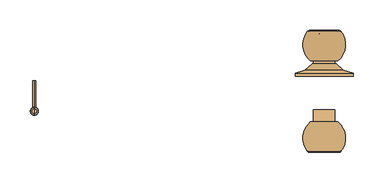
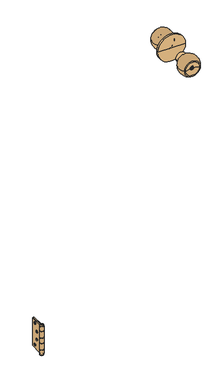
"""IFC4 building model written with IfcOpenShell, lengths in millimetres: door geometry, Puerta contraplacada : Puerta contraplacada 0.65x2.10 m."""

from ifc_helpers import new_model, si_unit, point, frame, frame_2d, origin, place, context, project, spatial, polyline, circle_curve, ellipse_curve, trimmed, segment, composite_curve, outline, extrude, source, transform, mapped, element, save
from ifc_brep_helpers import plane_surface, cylinder_surface, revolved_surface, advanced_brep


def door_6a2f5d4e(model_context):
    return source(origin(), model_context, "Body", "SolidModel", [
        advanced_brep(
        [(-289.0, -7.5, 200.0349265), (-289.0, -51.5, 200.0349265), (-289.0, -51.5, 184.5349265), (-289.0, -51.0, 184.5349265), (-289.0, -51.0, 159.0349265), (-289.0, -51.5, 159.0349265), (-289.0, -51.5, 141.0349265), (-289.0, -51.0, 141.0349265), (-289.0, -51.0, 115.5349265), (-289.0, -51.5, 115.5349265), (-289.0, -51.5, 100.0349265), (-289.0, -7.5, 100.0349265), (-289.0, -17.5, 111.0349265), (-289.0, -25.5, 111.0349265), (-289.0, -28.5, 136.0349265), (-289.0, -36.5, 136.0349265), (-289.0, -17.5, 189.0349265), (-289.0, -25.5, 189.0349265), (-289.0, -28.5, 164.0349265), (-289.0, -36.5, 164.0349265), (-291.0, -7.5, 100.0349265), (-291.0, -53.027864, 100.0349265), (-291.0, -53.027864, 115.5349265), (-291.0, -51.0, 115.5349265), (-291.0, -51.0, 141.0349265), (-291.0, -53.027864, 141.0349265), (-291.0, -53.027864, 159.0349265), (-291.0, -51.0, 159.0349265), (-291.0, -51.0, 184.5349265), (-291.0, -53.027864, 184.5349265), (-291.0, -53.027864, 200.0349265), (-291.0, -7.5, 200.0349265), (-291.0, -25.5, 111.0349265), (-291.0, -17.5, 111.0349265), (-291.0, -36.5, 136.0349265), (-291.0, -28.5, 136.0349265), (-291.0, -25.5, 189.0349265), (-291.0, -17.5, 189.0349265), (-291.0, -36.5, 164.0349265), (-291.0, -28.5, 164.0349265), (-292.0, -51.0192593, 100.0349265), (-292.0, -53.027864, 100.0349265), (-292.0, -53.027864, 200.0349265), (-292.0, -51.0192593, 200.0349265), (-292.0, -51.0192593, 184.5349265), (-292.0, -53.027864, 184.5349265), (-292.0, -53.027864, 159.0349265), (-292.0, -51.0192593, 159.0349265), (-292.0, -51.0192593, 141.0349265), (-292.0, -53.027864, 141.0349265), (-292.0, -53.027864, 115.5349265), (-292.0, -51.0192593, 115.5349265)],
        [
            (0, 1),
            (1, 2),
            (2, 3),
            (3, 4),
            (4, 5),
            (5, 6),
            (6, 7),
            (7, 8),
            (8, 9),
            (9, 10),
            (10, 11),
            (11, 0),
            (12, 13, circle_curve(frame((-289.0, -21.5, 111.0349265), z_axis=(-1.0, 0.0, 0.0), x_axis=(0.0, 1.0, 0.0)), 4.0)),
            (13, 12, circle_curve(frame((-289.0, -21.5, 111.0349265), z_axis=(-1.0, 0.0, 0.0), x_axis=(0.0, 1.0, 0.0)), 4.0)),
            (14, 15, circle_curve(frame((-289.0, -32.5, 136.0349265), z_axis=(-1.0, 0.0, 0.0), x_axis=(0.0, 1.0, 0.0)), 4.0)),
            (15, 14, circle_curve(frame((-289.0, -32.5, 136.0349265), z_axis=(-1.0, 0.0, 0.0), x_axis=(0.0, 1.0, 0.0)), 4.0)),
            (16, 17, circle_curve(frame((-289.0, -21.5, 189.0349265), z_axis=(-1.0, 0.0, 0.0), x_axis=(0.0, 1.0, 0.0)), 4.0)),
            (17, 16, circle_curve(frame((-289.0, -21.5, 189.0349265), z_axis=(-1.0, 0.0, 0.0), x_axis=(0.0, 1.0, 0.0)), 4.0)),
            (18, 19, circle_curve(frame((-289.0, -32.5, 164.0349265), z_axis=(-1.0, 0.0, 0.0), x_axis=(0.0, 1.0, 0.0)), 4.0)),
            (19, 18, circle_curve(frame((-289.0, -32.5, 164.0349265), z_axis=(-1.0, 0.0, 0.0), x_axis=(0.0, 1.0, 0.0)), 4.0)),
            (20, 21),
            (21, 22),
            (22, 23),
            (23, 24),
            (24, 25),
            (25, 26),
            (26, 27),
            (27, 28),
            (28, 29),
            (29, 30),
            (30, 31),
            (31, 20),
            (32, 33, circle_curve(frame((-291.0, -21.5, 111.0349265), z_axis=(1.0, 0.0, 0.0), x_axis=(0.0, 1.0, 0.0)), 4.0)),
            (33, 32, circle_curve(frame((-291.0, -21.5, 111.0349265), z_axis=(1.0, 0.0, 0.0), x_axis=(0.0, 1.0, 0.0)), 4.0)),
            (34, 35, circle_curve(frame((-291.0, -32.5, 136.0349265), z_axis=(1.0, 0.0, 0.0), x_axis=(0.0, 1.0, 0.0)), 4.0)),
            (35, 34, circle_curve(frame((-291.0, -32.5, 136.0349265), z_axis=(1.0, 0.0, 0.0), x_axis=(0.0, 1.0, 0.0)), 4.0)),
            (36, 37, circle_curve(frame((-291.0, -21.5, 189.0349265), z_axis=(1.0, 0.0, 0.0), x_axis=(0.0, 1.0, 0.0)), 4.0)),
            (37, 36, circle_curve(frame((-291.0, -21.5, 189.0349265), z_axis=(1.0, 0.0, 0.0), x_axis=(0.0, 1.0, 0.0)), 4.0)),
            (38, 39, circle_curve(frame((-291.0, -32.5, 164.0349265), z_axis=(1.0, 0.0, 0.0), x_axis=(0.0, 1.0, 0.0)), 4.0)),
            (39, 38, circle_curve(frame((-291.0, -32.5, 164.0349265), z_axis=(1.0, 0.0, 0.0), x_axis=(0.0, 1.0, 0.0)), 4.0)),
            (10, 40, circle_curve(frame((-291.5, -57.5, 100.0349265), z_axis=(0.0, 0.0, -1.0), x_axis=(0.0, -1.0, 0.0)), 6.5)),
            (40, 41),
            (41, 21, circle_curve(frame((-291.5, -57.5, 100.0349265), z_axis=(0.0, 0.0, 1.0), x_axis=(0.0, -1.0, 0.0)), 4.5)),
            (20, 11),
            (31, 0),
            (30, 42, circle_curve(frame((-291.5, -57.5, 200.0349265), z_axis=(0.0, 0.0, -1.0), x_axis=(0.0, -1.0, 0.0)), 4.5)),
            (42, 43),
            (43, 1, circle_curve(frame((-291.5, -57.5, 200.0349265), z_axis=(0.0, 0.0, 1.0), x_axis=(0.0, -1.0, 0.0)), 6.5)),
            (27, 4),
            (3, 28),
            (23, 8),
            (7, 24),
            (2, 44, circle_curve(frame((-291.5, -57.5, 184.5349265), z_axis=(0.0, 0.0, -1.0), x_axis=(0.0, -1.0, 0.0)), 6.5)),
            (44, 45),
            (45, 29, circle_curve(frame((-291.5, -57.5, 184.5349265), z_axis=(0.0, 0.0, 1.0), x_axis=(0.0, -1.0, 0.0)), 4.5)),
            (43, 44),
            (42, 45),
            (26, 46, circle_curve(frame((-291.5, -57.5, 159.0349265), z_axis=(0.0, 0.0, -1.0), x_axis=(0.0, -1.0, 0.0)), 4.5)),
            (46, 47),
            (47, 5, circle_curve(frame((-291.5, -57.5, 159.0349265), z_axis=(0.0, 0.0, 1.0), x_axis=(0.0, -1.0, 0.0)), 6.5)),
            (6, 48, circle_curve(frame((-291.5, -57.5, 141.0349265), z_axis=(0.0, 0.0, -1.0), x_axis=(0.0, -1.0, 0.0)), 6.5)),
            (48, 49),
            (49, 25, circle_curve(frame((-291.5, -57.5, 141.0349265), z_axis=(0.0, 0.0, 1.0), x_axis=(0.0, -1.0, 0.0)), 4.5)),
            (47, 48),
            (46, 49),
            (22, 50, circle_curve(frame((-291.5, -57.5, 115.5349265), z_axis=(0.0, 0.0, -1.0), x_axis=(0.0, -1.0, 0.0)), 4.5)),
            (50, 51),
            (51, 9, circle_curve(frame((-291.5, -57.5, 115.5349265), z_axis=(0.0, 0.0, 1.0), x_axis=(0.0, -1.0, 0.0)), 6.5)),
            (51, 40),
            (50, 41),
            (33, 12),
            (13, 32),
            (35, 14),
            (15, 34),
            (37, 16),
            (17, 36),
            (39, 18),
            (19, 38),
        ],
        [
            plane_surface(frame((-289.0, -51.0, 100.0349265), z_axis=(1.0, 0.0, 0.0), x_axis=(0.0, 0.0, 1.0))),
            plane_surface(frame((-291.0, -51.0, 100.0349265), z_axis=(-1.0, 0.0, 0.0), x_axis=(0.0, 0.0, -1.0))),
            plane_surface(frame((-289.0, -7.5, 100.0349265), z_axis=(0.0, 0.0, -1.0), x_axis=(-1.0, 0.0, 0.0))),
            plane_surface(frame((-289.0, -7.5, 200.0349265), z_axis=(0.0, 1.0, 0.0), x_axis=(-1.0, 0.0, 0.0))),
            plane_surface(frame((-289.0, -51.0, 200.0349265), z_axis=(0.0, 0.0, 1.0), x_axis=(-1.0, 0.0, 0.0))),
            plane_surface(frame((-289.0, -51.0, 100.0349265), z_axis=(0.0, -1.0, 0.0), x_axis=(-1.0, 0.0, 0.0))),
            plane_surface(frame((-291.0, -51.0, 184.5349265), z_axis=(0.0, 0.0, -1.0), x_axis=(0.0, -1.0, 0.0))),
            cylinder_surface(frame((-291.5, -57.5, 184.5349265), z_axis=(0.0, 0.0, 1.0), x_axis=(0.0, -1.0, 0.0)), 6.5),
            plane_surface(frame((-292.0, -51.0192593, 200.0349265), z_axis=(1.0, 0.0, 0.0), x_axis=(0.0, 0.0, -1.0))),
            revolved_surface(polyline([(-291.5, -62.0, 184.5349265), (-291.5, -62.0, 200.0349265)]), (-291.5, -57.5, 184.5349265), (0.0, 0.0, -1.0)),
            plane_surface(frame((-291.0, -51.0, 159.0349265), z_axis=(0.0, 0.0, 1.0), x_axis=(0.0, 1.0, 0.0))),
            plane_surface(frame((-291.0, -51.0, 141.0349265), z_axis=(0.0, 0.0, -1.0), x_axis=(0.0, -1.0, 0.0))),
            cylinder_surface(frame((-291.5, -57.5, 141.0349265), z_axis=(0.0, 0.0, 1.0), x_axis=(0.0, -1.0, 0.0)), 6.5),
            plane_surface(frame((-292.0, -51.0192593, 159.0349265), z_axis=(1.0, 0.0, 0.0), x_axis=(0.0, 0.0, -1.0))),
            revolved_surface(polyline([(-291.5, -62.0, 141.0349265), (-291.5, -62.0, 159.0349265)]), (-291.5, -57.5, 141.0349265), (0.0, 0.0, -1.0)),
            plane_surface(frame((-291.0, -51.0, 115.5349265), z_axis=(0.0, 0.0, 1.0), x_axis=(0.0, 1.0, 0.0))),
            cylinder_surface(frame((-291.5, -57.5, 100.0349265), z_axis=(0.0, 0.0, 1.0), x_axis=(0.0, -1.0, 0.0)), 6.5),
            plane_surface(frame((-292.0, -51.0192593, 115.5349265), z_axis=(1.0, 0.0, 0.0), x_axis=(0.0, 0.0, -1.0))),
            revolved_surface(polyline([(-291.5, -62.0, 100.0349265), (-291.5, -62.0, 115.5349265)]), (-291.5, -57.5, 100.0349265), (0.0, 0.0, -1.0)),
            revolved_surface(polyline([(-289.0, -17.5, 111.0349265), (-291.0, -17.5, 111.0349265)]), (-294.0, -21.5, 111.0349265), (1.0, 0.0, 0.0)),
            revolved_surface(polyline([(-289.0, -28.5, 136.0349265), (-291.0, -28.5, 136.0349265)]), (-292.0, -32.5, 136.0349265), (1.0, 0.0, 0.0)),
            revolved_surface(polyline([(-289.0, -17.5, 189.0349265), (-291.0, -17.5, 189.0349265)]), (-292.0, -21.5, 189.0349265), (1.0, 0.0, 0.0)),
            revolved_surface(polyline([(-289.0, -28.5, 164.0349265), (-291.0, -28.5, 164.0349265)]), (-292.0, -32.5, 164.0349265), (1.0, 0.0, 0.0)),
        ],
        [
            (0, [[1, 2, 3, 4, 5, 6, 7, 8, 9, 10, 11, 12], [13, 14], [15, 16], [17, 18], [19, 20]]),
            (1, [[21, 22, 23, 24, 25, 26, 27, 28, 29, 30, 31, 32], [33, 34], [35, 36], [37, 38], [39, 40]]),
            (2, [[-11, 41, 42, 43, -21, 44]]),
            (3, [[-44, -32, 45, -12]]),
            (4, [[-31, 46, 47, 48, -1, -45]]),
            (5, [[-28, 49, -4, 50]]),
            (5, [[-24, 51, -8, 52]]),
            (6, [[-29, -50, -3, 53, 54, 55]]),
            (7, [[56, -53, -2, -48]]),
            (8, [[57, -54, -56, -47]]),
            (9, [[-30, -55, -57, -46]]),
            (10, [[-5, -49, -27, 58, 59, 60]]),
            (11, [[-25, -52, -7, 61, 62, 63]]),
            (12, [[64, -61, -6, -60]]),
            (13, [[65, -62, -64, -59]]),
            (14, [[-26, -63, -65, -58]]),
            (15, [[-9, -51, -23, 66, 67, 68]]),
            (16, [[69, -41, -10, -68]]),
            (17, [[70, -42, -69, -67]]),
            (18, [[-22, -43, -70, -66]]),
            (19, [[-34, 71, -14, 72]]),
            (19, [[-13, -71, -33, -72]]),
            (20, [[-36, 73, -16, 74]]),
            (20, [[-15, -73, -35, -74]]),
            (21, [[-38, 75, -18, 76]]),
            (21, [[-17, -75, -37, -76]]),
            (22, [[-40, 77, -20, 78]]),
            (22, [[-19, -77, -39, -78]]),
        ],
    ),
        advanced_brep(
        [(-291.5, -53.0, 204.0349265), (-291.5, -53.0, 200.5349265), (-291.5, -61.9442719, 200.5349265), (-291.5, -61.9442719, 204.0349265), (-291.5, -57.472136, 204.0349265), (-291.5, -53.0, 96.0349265), (-291.5, -57.472136, 96.0349265), (-291.5, -61.9442719, 96.0349265), (-291.5, -53.0, 99.5349265), (-291.5, -61.9442719, 99.5349265)],
        [
            (0, 1, circle_curve(frame((-291.5, -53.0, 202.2849265), z_axis=(-1.0, 0.0, 0.0), x_axis=(0.0, -1.0, 0.0)), 1.75)),
            (1, 2, circle_curve(frame((-291.5, -57.472136, 200.5349265), z_axis=(0.0, 0.0, 1.0), x_axis=(0.0, -1.0, 0.0)), 4.472136)),
            (2, 3, circle_curve(frame((-291.5, -61.9442719, 202.2849265), z_axis=(-1.0, 0.0, 0.0), x_axis=(0.0, 1.0, 0.0)), 1.75)),
            (3, 0, circle_curve(frame((-291.5, -57.472136, 204.0349265), z_axis=(0.0, 0.0, -1.0), x_axis=(0.0, -1.0, 0.0)), 4.472136)),
            (2, 1, circle_curve(frame((-291.5, -57.472136, 200.5349265), z_axis=(0.0, 0.0, 1.0), x_axis=(0.0, -1.0, 0.0)), 4.472136)),
            (0, 3, circle_curve(frame((-291.5, -57.472136, 204.0349265), z_axis=(0.0, 0.0, -1.0), x_axis=(0.0, -1.0, 0.0)), 4.472136)),
            (4, 0),
            (3, 4),
            (5, 6),
            (6, 7),
            (7, 5, circle_curve(frame((-291.5, -57.472136, 96.0349265), z_axis=(0.0, 0.0, -1.0), x_axis=(0.0, -1.0, 0.0)), 4.472136)),
            (5, 7, circle_curve(frame((-291.5, -57.472136, 96.0349265), z_axis=(0.0, 0.0, -1.0), x_axis=(0.0, -1.0, 0.0)), 4.472136)),
            (8, 5, circle_curve(frame((-291.5, -53.0, 97.7849265), z_axis=(-1.0, 0.0, 0.0), x_axis=(0.0, -1.0, 0.0)), 1.75)),
            (7, 9, circle_curve(frame((-291.5, -61.9442719, 97.7849265), z_axis=(-1.0, 0.0, 0.0), x_axis=(0.0, 1.0, 0.0)), 1.75)),
            (9, 8, circle_curve(frame((-291.5, -57.472136, 99.5349265), z_axis=(0.0, 0.0, -1.0), x_axis=(0.0, -1.0, 0.0)), 4.472136)),
            (8, 9, circle_curve(frame((-291.5, -57.472136, 99.5349265), z_axis=(0.0, 0.0, -1.0), x_axis=(0.0, -1.0, 0.0)), 4.472136)),
            (1, 8),
            (9, 2),
        ],
        [
            revolved_surface(trimmed(ellipse_curve(frame((-291.5, -61.9442719, 202.2849265), z_axis=(-1.0, 0.0, 0.0), x_axis=(0.0, 1.0, 0.0)), 1.75, 1.75), [point((-291.5, -61.9442719, 200.5349265))], [point((-291.5, -61.9442719, 204.0349265))], True, "CARTESIAN"), (-291.5, -57.472136, 204.0349265), (0.0, 0.0, 1.0)),
            plane_surface(frame((-291.5, -57.472136, 204.0349265), z_axis=(0.0, 0.0, 1.0), x_axis=(0.0, -1.0, 0.0))),
            plane_surface(frame((-291.5, -57.472136, 96.0349265), z_axis=(0.0, 0.0, -1.0), x_axis=(0.0, -1.0, 0.0))),
            revolved_surface(trimmed(ellipse_curve(frame((-291.5, -61.9442719, 97.7849265), z_axis=(-1.0, 0.0, 0.0), x_axis=(0.0, 1.0, 0.0)), 1.75, 1.75), [point((-291.5, -61.9442719, 96.0349265))], [point((-291.5, -61.9442719, 99.5349265))], True, "CARTESIAN"), (-291.5, -57.472136, 204.0349265), (0.0, 0.0, 1.0)),
            cylinder_surface(frame((-291.5, -57.472136, 204.0349265), z_axis=(0.0, 0.0, 1.0), x_axis=(0.0, -1.0, 0.0)), 4.472136),
        ],
        [
            (0, [[1, 2, 3, 4]]),
            (0, [[-3, 5, -1, 6]]),
            (1, [[7, -4, 8]]),
            (1, [[-8, -6, -7]]),
            (2, [[9, 10, 11]]),
            (2, [[-10, -9, 12]]),
            (3, [[13, -11, 14, 15]]),
            (3, [[-14, -12, -13, 16]]),
            (4, [[17, -15, 18, -2]]),
            (4, [[-18, -16, -17, -5]]),
        ],
    ),
        advanced_brep(
        [(-292.0, -51.0, 200.0349265), (-292.0, -51.0, 183.5349265), (-292.0, -53.027864, 183.5349265), (-292.0, -53.027864, 160.0349265), (-292.0, -51.0, 160.0349265), (-292.0, -51.0, 140.0349265), (-292.0, -53.027864, 140.0349265), (-292.0, -53.027864, 116.5349265), (-292.0, -51.0, 116.5349265), (-292.0, -51.0, 100.0349265), (-292.0, -7.5, 100.0349265), (-292.0, -7.5, 200.0349265), (-292.0, -17.5, 111.0349265), (-292.0, -25.5, 111.0349265), (-292.0, -28.5, 136.0349265), (-292.0, -36.5, 136.0349265), (-292.0, -17.5, 189.0349265), (-292.0, -25.5, 189.0349265), (-292.0, -28.5, 164.0349265), (-292.0, -36.5, 164.0349265), (-294.0, -51.0, 100.0349265), (-294.0, -51.0, 116.5349265), (-294.0, -51.5, 116.5349265), (-294.0, -51.5, 140.0349265), (-294.0, -51.0, 140.0349265), (-294.0, -51.0, 160.0349265), (-294.0, -51.5, 160.0349265), (-294.0, -51.5, 183.5349265), (-294.0, -51.0, 183.5349265), (-294.0, -51.0, 200.0349265), (-294.0, -7.5, 200.0349265), (-294.0, -7.5, 100.0349265), (-294.0, -25.5, 111.0349265), (-294.0, -17.5, 111.0349265), (-294.0, -36.5, 136.0349265), (-294.0, -28.5, 136.0349265), (-294.0, -25.5, 189.0349265), (-294.0, -17.5, 189.0349265), (-294.0, -36.5, 164.0349265), (-294.0, -28.5, 164.0349265), (-291.0, -51.0192593, 183.5349265), (-291.0, -53.027864, 183.5349265), (-291.0, -53.027864, 160.0349265), (-291.0, -51.0192593, 160.0349265), (-291.0, -51.0192593, 140.0349265), (-291.0, -53.027864, 140.0349265), (-291.0, -53.027864, 116.5349265), (-291.0, -51.0192593, 116.5349265)],
        [
            (0, 1),
            (1, 2),
            (2, 3),
            (3, 4),
            (4, 5),
            (5, 6),
            (6, 7),
            (7, 8),
            (8, 9),
            (9, 10),
            (10, 11),
            (11, 0),
            (12, 13, circle_curve(frame((-292.0, -21.5, 111.0349265), z_axis=(-1.0, 0.0, 0.0), x_axis=(0.0, 1.0, 0.0)), 4.0)),
            (13, 12, circle_curve(frame((-292.0, -21.5, 111.0349265), z_axis=(-1.0, 0.0, 0.0), x_axis=(0.0, 1.0, 0.0)), 4.0)),
            (14, 15, circle_curve(frame((-292.0, -32.5, 136.0349265), z_axis=(-1.0, 0.0, 0.0), x_axis=(0.0, 1.0, 0.0)), 4.0)),
            (15, 14, circle_curve(frame((-292.0, -32.5, 136.0349265), z_axis=(-1.0, 0.0, 0.0), x_axis=(0.0, 1.0, 0.0)), 4.0)),
            (16, 17, circle_curve(frame((-292.0, -21.5, 189.0349265), z_axis=(-1.0, 0.0, 0.0), x_axis=(0.0, 1.0, 0.0)), 4.0)),
            (17, 16, circle_curve(frame((-292.0, -21.5, 189.0349265), z_axis=(-1.0, 0.0, 0.0), x_axis=(0.0, 1.0, 0.0)), 4.0)),
            (18, 19, circle_curve(frame((-292.0, -32.5, 164.0349265), z_axis=(-1.0, 0.0, 0.0), x_axis=(0.0, 1.0, 0.0)), 4.0)),
            (19, 18, circle_curve(frame((-292.0, -32.5, 164.0349265), z_axis=(-1.0, 0.0, 0.0), x_axis=(0.0, 1.0, 0.0)), 4.0)),
            (20, 21),
            (21, 22),
            (22, 23),
            (23, 24),
            (24, 25),
            (25, 26),
            (26, 27),
            (27, 28),
            (28, 29),
            (29, 30),
            (30, 31),
            (31, 20),
            (32, 33, circle_curve(frame((-294.0, -21.5, 111.0349265), z_axis=(1.0, 0.0, 0.0), x_axis=(0.0, 1.0, 0.0)), 4.0)),
            (33, 32, circle_curve(frame((-294.0, -21.5, 111.0349265), z_axis=(1.0, 0.0, 0.0), x_axis=(0.0, 1.0, 0.0)), 4.0)),
            (34, 35, circle_curve(frame((-294.0, -32.5, 136.0349265), z_axis=(1.0, 0.0, 0.0), x_axis=(0.0, 1.0, 0.0)), 4.0)),
            (35, 34, circle_curve(frame((-294.0, -32.5, 136.0349265), z_axis=(1.0, 0.0, 0.0), x_axis=(0.0, 1.0, 0.0)), 4.0)),
            (36, 37, circle_curve(frame((-294.0, -21.5, 189.0349265), z_axis=(1.0, 0.0, 0.0), x_axis=(0.0, 1.0, 0.0)), 4.0)),
            (37, 36, circle_curve(frame((-294.0, -21.5, 189.0349265), z_axis=(1.0, 0.0, 0.0), x_axis=(0.0, 1.0, 0.0)), 4.0)),
            (38, 39, circle_curve(frame((-294.0, -32.5, 164.0349265), z_axis=(1.0, 0.0, 0.0), x_axis=(0.0, 1.0, 0.0)), 4.0)),
            (39, 38, circle_curve(frame((-294.0, -32.5, 164.0349265), z_axis=(1.0, 0.0, 0.0), x_axis=(0.0, 1.0, 0.0)), 4.0)),
            (9, 20),
            (31, 10),
            (30, 11),
            (29, 0),
            (8, 21),
            (28, 1),
            (24, 5),
            (4, 25),
            (27, 40, circle_curve(frame((-291.5, -57.5, 183.5349265), z_axis=(0.0, 0.0, 1.0), x_axis=(0.0, -1.0, 0.0)), 6.5)),
            (40, 41),
            (41, 2, circle_curve(frame((-291.5, -57.5, 183.5349265), z_axis=(0.0, 0.0, -1.0), x_axis=(0.0, -1.0, 0.0)), 4.5)),
            (3, 42, circle_curve(frame((-291.5, -57.5, 160.0349265), z_axis=(0.0, 0.0, 1.0), x_axis=(0.0, -1.0, 0.0)), 4.5)),
            (42, 43),
            (43, 26, circle_curve(frame((-291.5, -57.5, 160.0349265), z_axis=(0.0, 0.0, -1.0), x_axis=(0.0, -1.0, 0.0)), 6.5)),
            (43, 40),
            (42, 41),
            (23, 44, circle_curve(frame((-291.5, -57.5, 140.0349265), z_axis=(0.0, 0.0, 1.0), x_axis=(0.0, -1.0, 0.0)), 6.5)),
            (44, 45),
            (45, 6, circle_curve(frame((-291.5, -57.5, 140.0349265), z_axis=(0.0, 0.0, -1.0), x_axis=(0.0, -1.0, 0.0)), 4.5)),
            (7, 46, circle_curve(frame((-291.5, -57.5, 116.5349265), z_axis=(0.0, 0.0, 1.0), x_axis=(0.0, -1.0, 0.0)), 4.5)),
            (46, 47),
            (47, 22, circle_curve(frame((-291.5, -57.5, 116.5349265), z_axis=(0.0, 0.0, -1.0), x_axis=(0.0, -1.0, 0.0)), 6.5)),
            (47, 44),
            (46, 45),
            (33, 12),
            (13, 32),
            (35, 14),
            (15, 34),
            (37, 16),
            (17, 36),
            (39, 18),
            (19, 38),
        ],
        [
            plane_surface(frame((-292.0, -51.0, 100.0349265), z_axis=(1.0, 0.0, 0.0), x_axis=(0.0, 0.0, 1.0))),
            plane_surface(frame((-294.0, -51.0, 100.0349265), z_axis=(-1.0, 0.0, 0.0), x_axis=(0.0, 0.0, -1.0))),
            plane_surface(frame((-292.0, -7.5, 100.0349265), z_axis=(0.0, 0.0, -1.0), x_axis=(-1.0, 0.0, 0.0))),
            plane_surface(frame((-292.0, -7.5, 200.0349265), z_axis=(0.0, 1.0, 0.0), x_axis=(-1.0, 0.0, 0.0))),
            plane_surface(frame((-292.0, -51.0, 200.0349265), z_axis=(0.0, 0.0, 1.0), x_axis=(-1.0, 0.0, 0.0))),
            plane_surface(frame((-292.0, -51.0, 100.0349265), z_axis=(0.0, -1.0, 0.0), x_axis=(-1.0, 0.0, 0.0))),
            plane_surface(frame((-291.5, -62.0, 183.5349265), z_axis=(0.0, 0.0, 1.0), x_axis=(1.0, 0.0, 0.0))),
            plane_surface(frame((-291.5, -62.0, 160.0349265), z_axis=(0.0, 0.0, -1.0), x_axis=(-1.0, 0.0, 0.0))),
            cylinder_surface(frame((-291.5, -57.5, 160.0349265), z_axis=(0.0, 0.0, 1.0), x_axis=(0.0, -1.0, 0.0)), 6.5),
            plane_surface(frame((-291.0, -53.027864, 183.5349265), z_axis=(-1.0, 0.0, 0.0), x_axis=(0.0, 0.0, -1.0))),
            revolved_surface(polyline([(-291.5, -62.0, 160.0349265), (-291.5, -62.0, 183.5349265)]), (-291.5, -57.5, 160.0349265), (0.0, 0.0, -1.0)),
            plane_surface(frame((-291.5, -62.0, 140.0349265), z_axis=(0.0, 0.0, 1.0), x_axis=(1.0, 0.0, 0.0))),
            plane_surface(frame((-291.5, -62.0, 116.5349265), z_axis=(0.0, 0.0, -1.0), x_axis=(-1.0, 0.0, 0.0))),
            cylinder_surface(frame((-291.5, -57.5, 116.5349265), z_axis=(0.0, 0.0, 1.0), x_axis=(0.0, -1.0, 0.0)), 6.5),
            plane_surface(frame((-291.0, -53.027864, 140.0349265), z_axis=(-1.0, 0.0, 0.0), x_axis=(0.0, 0.0, -1.0))),
            revolved_surface(polyline([(-291.5, -62.0, 116.5349265), (-291.5, -62.0, 140.0349265)]), (-291.5, -57.5, 116.5349265), (0.0, 0.0, -1.0)),
            revolved_surface(polyline([(-292.0, -17.5, 111.0349265), (-294.0, -17.5, 111.0349265)]), (-294.0, -21.5, 111.0349265), (1.0, 0.0, 0.0)),
            revolved_surface(polyline([(-292.0, -28.5, 136.0349265), (-294.0, -28.5, 136.0349265)]), (-292.0, -32.5, 136.0349265), (1.0, 0.0, 0.0)),
            revolved_surface(polyline([(-292.0, -17.5, 189.0349265), (-294.0, -17.5, 189.0349265)]), (-292.0, -21.5, 189.0349265), (1.0, 0.0, 0.0)),
            revolved_surface(polyline([(-292.0, -28.5, 164.0349265), (-294.0, -28.5, 164.0349265)]), (-292.0, -32.5, 164.0349265), (1.0, 0.0, 0.0)),
        ],
        [
            (0, [[1, 2, 3, 4, 5, 6, 7, 8, 9, 10, 11, 12], [13, 14], [15, 16], [17, 18], [19, 20]]),
            (1, [[21, 22, 23, 24, 25, 26, 27, 28, 29, 30, 31, 32], [33, 34], [35, 36], [37, 38], [39, 40]]),
            (2, [[41, -32, 42, -10]]),
            (3, [[-42, -31, 43, -11]]),
            (4, [[-43, -30, 44, -12]]),
            (5, [[-9, 45, -21, -41]]),
            (5, [[-29, 46, -1, -44]]),
            (5, [[-25, 47, -5, 48]]),
            (6, [[-2, -46, -28, 49, 50, 51]]),
            (7, [[-26, -48, -4, 52, 53, 54]]),
            (8, [[-27, -54, 55, -49]]),
            (9, [[-55, -53, 56, -50]]),
            (10, [[-56, -52, -3, -51]]),
            (11, [[-6, -47, -24, 57, 58, 59]]),
            (12, [[-22, -45, -8, 60, 61, 62]]),
            (13, [[-23, -62, 63, -57]]),
            (14, [[-63, -61, 64, -58]]),
            (15, [[-64, -60, -7, -59]]),
            (16, [[-34, 65, -14, 66]]),
            (16, [[-13, -65, -33, -66]]),
            (17, [[-36, 67, -16, 68]]),
            (17, [[-15, -67, -35, -68]]),
            (18, [[-38, 69, -18, 70]]),
            (18, [[-17, -69, -37, -70]]),
            (19, [[-40, 71, -20, 72]]),
            (19, [[-19, -71, -39, -72]]),
        ],
    ),
        advanced_brep(
        [(208.5312643, 74.946362, 1000.0), (191.48125, 70.0573491, 1000.0), (179.08125, 70.0573491, 1000.0), (162.0312357, 74.946362, 1000.0), (191.48125, 66.5726145, 1000.0), (179.08125, 66.5726145, 1000.0), (185.28125, 66.5726145, 1000.0), (162.840796, 25.0, 1000.0), (184.28125, 25.0, 1000.0), (185.28125, 25.0, 1000.0), (185.28125, 25.0, 1004.2233344), (186.28125, 25.0, 1004.2233344), (186.28125, 25.0, 1000.0), (207.721704, 25.0, 1000.0), (186.28125, 25.0, 995.9198337), (184.28125, 25.0, 995.9198337), (184.28125, 25.0, 997.5508857), (185.28125, 25.0, 997.5508857), (185.28125, 25.0, 998.7784645), (184.28125, 25.0, 998.7784645), (212.7045262, 73.6071088, 1000.0), (157.8579738, 73.6071088, 1000.0), (186.28125, 33.4273855, 995.9198337), (186.28125, 33.4273855, 1004.2233344), (185.28125, 33.4273855, 1004.2233344), (185.28125, 33.4273855, 1000.0), (184.28125, 33.4273855, 1000.0), (184.28125, 33.4273855, 998.7784645), (185.28125, 33.4273855, 998.7784645), (185.28125, 33.4273855, 997.5508857), (184.28125, 33.4273855, 997.5508857), (184.28125, 33.4273855, 995.9198337)],
        [
            (0, 1),
            (1, 2, circle_curve(frame((185.28125, 70.0573491, 1000.0), z_axis=(0.0, -1.0, 0.0), x_axis=(-1.0, 0.0, 0.0)), 6.2)),
            (2, 3),
            (3, 0, circle_curve(frame((185.28125, 74.946362, 1000.0), z_axis=(0.0, 1.0, 0.0), x_axis=(-1.0, 0.0, 0.0)), 23.2500143)),
            (2, 1, circle_curve(frame((185.28125, 70.0573491, 1000.0), z_axis=(0.0, -1.0, 0.0), x_axis=(-1.0, 0.0, 0.0)), 6.2)),
            (0, 3, circle_curve(frame((185.28125, 74.946362, 1000.0), z_axis=(0.0, 1.0, 0.0), x_axis=(-1.0, 0.0, 0.0)), 23.2500143)),
            (1, 4),
            (4, 5, circle_curve(frame((185.28125, 66.5726145, 1000.0), z_axis=(0.0, -1.0, 0.0), x_axis=(-1.0, 0.0, 0.0)), 6.2)),
            (5, 2),
            (5, 4, circle_curve(frame((185.28125, 66.5726145, 1000.0), z_axis=(0.0, -1.0, 0.0), x_axis=(-1.0, 0.0, 0.0)), 6.2)),
            (4, 6),
            (6, 5),
            (7, 8),
            (8, 9),
            (9, 10),
            (10, 11),
            (11, 12),
            (12, 13),
            (13, 7, circle_curve(frame((185.28125, 25.0, 1000.0), z_axis=(0.0, -1.0, 0.0), x_axis=(-1.0, 0.0, 0.0)), 22.440454)),
            (12, 14),
            (14, 15),
            (15, 16),
            (16, 17),
            (17, 18),
            (18, 19),
            (19, 8),
            (7, 13, circle_curve(frame((185.28125, 25.0, 1000.0), z_axis=(0.0, -1.0, 0.0), x_axis=(-1.0, 0.0, 0.0)), 22.440454)),
            (13, 20, circle_curve(frame((185.28125, 51.859375, 1000.0), z_axis=(0.0, 0.0, 1.0), x_axis=(-1.0, 0.0, 0.0)), 35.0)),
            (20, 21, circle_curve(frame((185.28125, 73.6071088, 1000.0), z_axis=(0.0, -1.0, 0.0), x_axis=(-1.0, 0.0, 0.0)), 27.4232762)),
            (21, 7, circle_curve(frame((185.28125, 51.859375, 1000.0), z_axis=(0.0, 0.0, 1.0), x_axis=(1.0, 0.0, 0.0)), 35.0)),
            (21, 20, circle_curve(frame((185.28125, 73.6071088, 1000.0), z_axis=(0.0, -1.0, 0.0), x_axis=(-1.0, 0.0, 0.0)), 27.4232762)),
            (3, 21, circle_curve(frame((160.9451794, 71.1588336, 1000.0), z_axis=(0.0, 0.0, 1.0), x_axis=(1.0, 0.0, 0.0)), 3.9401636)),
            (20, 0, circle_curve(frame((209.6173206, 71.1588336, 1000.0), z_axis=(0.0, 0.0, 1.0), x_axis=(-1.0, 0.0, 0.0)), 3.9401636)),
            (22, 23),
            (23, 24),
            (24, 25),
            (25, 26),
            (26, 27),
            (27, 28),
            (28, 29),
            (29, 30),
            (30, 31),
            (31, 22),
            (31, 15),
            (14, 22),
            (30, 16),
            (29, 17),
            (28, 18),
            (27, 19),
            (26, 8),
            (25, 9),
            (24, 10),
            (23, 11),
        ],
        [
            revolved_surface(polyline([(179.08125, 70.0573491, 1000.0), (162.0312357, 74.946362, 1000.0)]), (185.28125, 27.0, 1000.0), (0.0, -1.0, 0.0)),
            revolved_surface(polyline([(179.08125, 66.5726145, 1000.0), (179.08125, 70.0573491, 1000.0)]), (185.28125, 27.0, 1000.0), (0.0, -1.0, 0.0)),
            plane_surface(frame((185.28125, 66.5726145, 1000.0), z_axis=(0.0, 1.0, 0.0), x_axis=(-1.0, 0.0, 0.0))),
            plane_surface(frame((185.28125, 25.0, 1000.0), z_axis=(0.0, -1.0, 0.0), x_axis=(-1.0, 0.0, 0.0))),
            revolved_surface(trimmed(ellipse_curve(frame((185.28125, 51.859375, 1000.0), z_axis=(0.0, 0.0, 1.0), x_axis=(1.0, 0.0, 0.0)), 35.0, 35.0), [point((157.8579738, 73.6071088, 1000.0))], [point((162.840796, 25.0, 1000.0))], True, "CARTESIAN"), (185.28125, 27.0, 1000.0), (0.0, -1.0, 0.0)),
            revolved_surface(trimmed(ellipse_curve(frame((160.9451794, 71.1588336, 1000.0), z_axis=(0.0, 0.0, 1.0), x_axis=(1.0, 0.0, 0.0)), 3.9401636, 3.9401636), [point((162.0312357, 74.946362, 1000.0))], [point((157.8579738, 73.6071088, 1000.0))], True, "CARTESIAN"), (185.28125, 27.0, 1000.0), (0.0, -1.0, 0.0)),
            plane_surface(frame((184.28125, 33.4273855, 995.9198337), z_axis=(0.0, -1.0, 0.0), x_axis=(1.0, 0.0, 0.0))),
            plane_surface(frame((186.28125, 18.8970167, 995.9198337), z_axis=(0.0, 0.0, 1.0), x_axis=(0.0, 1.0, 0.0))),
            plane_surface(frame((184.28125, 18.8970167, 995.9198337), z_axis=(1.0, 0.0, 0.0), x_axis=(0.0, 1.0, 0.0))),
            plane_surface(frame((184.28125, 18.8970167, 997.5508857), z_axis=(0.0, 0.0, -1.0), x_axis=(0.0, 1.0, 0.0))),
            plane_surface(frame((185.28125, 18.8970167, 997.5508857), z_axis=(1.0, 0.0, 0.0), x_axis=(0.0, 1.0, 0.0))),
            plane_surface(frame((185.28125, 18.8970167, 998.7784645), z_axis=(0.0, 0.0, 1.0), x_axis=(0.0, 1.0, 0.0))),
            plane_surface(frame((184.28125, 18.8970167, 998.7784645), z_axis=(1.0, 0.0, 0.0), x_axis=(0.0, 1.0, 0.0))),
            plane_surface(frame((184.28125, 18.8970167, 1000.0), z_axis=(0.0, 0.0, -1.0), x_axis=(0.0, 1.0, 0.0))),
            plane_surface(frame((185.28125, 18.8970167, 1000.0), z_axis=(1.0, 0.0, 0.0), x_axis=(0.0, 1.0, 0.0))),
            plane_surface(frame((185.28125, 18.8970167, 1004.2233344), z_axis=(0.0, 0.0, -1.0), x_axis=(0.0, 1.0, 0.0))),
            plane_surface(frame((186.28125, 18.8970167, 1004.2233344), z_axis=(-1.0, 0.0, 0.0), x_axis=(0.0, 1.0, 0.0))),
        ],
        [
            (0, [[1, 2, 3, 4]]),
            (0, [[5, -1, 6, -3]]),
            (1, [[7, 8, 9, -2]]),
            (1, [[-9, 10, -7, -5]]),
            (2, [[11, 12, -8]]),
            (2, [[-12, -11, -10]]),
            (3, [[13, 14, 15, 16, 17, 18, 19]]),
            (3, [[-18, 20, 21, 22, 23, 24, 25, 26, -13, 27]]),
            (4, [[28, 29, 30, -19]]),
            (4, [[-30, 31, -28, -27]]),
            (5, [[32, -29, 33, -4]]),
            (5, [[-33, -31, -32, -6]]),
            (6, [[34, 35, 36, 37, 38, 39, 40, 41, 42, 43]]),
            (7, [[44, -21, 45, -43]]),
            (8, [[46, -22, -44, -42]]),
            (9, [[47, -23, -46, -41]]),
            (10, [[48, -24, -47, -40]]),
            (11, [[49, -25, -48, -39]]),
            (12, [[50, -26, -49, -38]]),
            (13, [[51, -14, -50, -37]]),
            (14, [[52, -15, -51, -36]]),
            (15, [[53, -16, -52, -35]]),
            (16, [[-45, -20, -17, -53, -34]]),
        ],
    ),
        advanced_brep(
        [(167.78125, 5.0, 1000.0), (202.78125, 5.0, 1000.0), (167.78125, 25.0, 1000.0), (202.78125, 25.0, 1000.0), (186.28125, 25.0, 995.9198337), (186.28125, 25.0, 1004.2233344), (185.28125, 25.0, 1004.2233344), (185.28125, 25.0, 1000.0), (184.28125, 25.0, 1000.0), (184.28125, 25.0, 998.7784645), (185.28125, 25.0, 998.7784645), (185.28125, 25.0, 997.5508857), (184.28125, 25.0, 997.5508857), (184.28125, 25.0, 995.9198337), (186.28125, 18.8970167, 995.9198337), (184.28125, 18.8970167, 995.9198337), (184.28125, 18.8970167, 997.5508857), (185.28125, 18.8970167, 997.5508857), (185.28125, 18.8970167, 998.7784645), (184.28125, 18.8970167, 998.7784645), (184.28125, 18.8970167, 1000.0), (185.28125, 18.8970167, 1000.0), (185.28125, 18.8970167, 1004.2233344), (186.28125, 18.8970167, 1004.2233344)],
        [
            (0, 1, circle_curve(frame((185.28125, 5.0, 1000.0), z_axis=(0.0, -1.0, 0.0), x_axis=(1.0, 0.0, 0.0)), 17.5)),
            (1, 0, circle_curve(frame((185.28125, 5.0, 1000.0), z_axis=(0.0, -1.0, 0.0), x_axis=(1.0, 0.0, 0.0)), 17.5)),
            (2, 3, circle_curve(frame((185.28125, 25.0, 1000.0), z_axis=(0.0, 1.0, 0.0), x_axis=(1.0, 0.0, 0.0)), 17.5)),
            (3, 2, circle_curve(frame((185.28125, 25.0, 1000.0), z_axis=(0.0, 1.0, 0.0), x_axis=(1.0, 0.0, 0.0)), 17.5)),
            (4, 5),
            (5, 6),
            (6, 7),
            (7, 8),
            (8, 9),
            (9, 10),
            (10, 11),
            (11, 12),
            (12, 13),
            (13, 4),
            (1, 3),
            (2, 0),
            (14, 15),
            (15, 16),
            (16, 17),
            (17, 18),
            (18, 19),
            (19, 20),
            (20, 21),
            (21, 22),
            (22, 23),
            (23, 14),
            (14, 4),
            (13, 15),
            (12, 16),
            (11, 17),
            (10, 18),
            (9, 19),
            (8, 20),
            (7, 21),
            (6, 22),
            (5, 23),
        ],
        [
            plane_surface(frame((202.78125, 5.0, 1000.0), z_axis=(0.0, -1.0, 0.0), x_axis=(0.0, 0.0, -1.0))),
            plane_surface(frame((202.78125, 25.0, 1000.0), z_axis=(0.0, 1.0, 0.0), x_axis=(0.0, 0.0, 1.0))),
            cylinder_surface(frame((185.28125, 25.0, 1000.0), z_axis=(0.0, -1.0, 0.0), x_axis=(1.0, 0.0, 0.0)), 17.5),
            plane_surface(frame((184.28125, 18.8970167, 995.9198337), z_axis=(0.0, 1.0, 0.0), x_axis=(-1.0, 0.0, 0.0))),
            plane_surface(frame((186.28125, 18.8970167, 995.9198337), z_axis=(0.0, 0.0, 1.0), x_axis=(0.0, 1.0, 0.0))),
            plane_surface(frame((184.28125, 18.8970167, 995.9198337), z_axis=(1.0, 0.0, 0.0), x_axis=(0.0, 1.0, 0.0))),
            plane_surface(frame((184.28125, 18.8970167, 997.5508857), z_axis=(0.0, 0.0, -1.0), x_axis=(0.0, 1.0, 0.0))),
            plane_surface(frame((185.28125, 18.8970167, 997.5508857), z_axis=(1.0, 0.0, 0.0), x_axis=(0.0, 1.0, 0.0))),
            plane_surface(frame((185.28125, 18.8970167, 998.7784645), z_axis=(0.0, 0.0, 1.0), x_axis=(0.0, 1.0, 0.0))),
            plane_surface(frame((184.28125, 18.8970167, 998.7784645), z_axis=(1.0, 0.0, 0.0), x_axis=(0.0, 1.0, 0.0))),
            plane_surface(frame((184.28125, 18.8970167, 1000.0), z_axis=(0.0, 0.0, -1.0), x_axis=(0.0, 1.0, 0.0))),
            plane_surface(frame((185.28125, 18.8970167, 1000.0), z_axis=(1.0, 0.0, 0.0), x_axis=(0.0, 1.0, 0.0))),
            plane_surface(frame((185.28125, 18.8970167, 1004.2233344), z_axis=(0.0, 0.0, -1.0), x_axis=(0.0, 1.0, 0.0))),
            plane_surface(frame((186.28125, 18.8970167, 1004.2233344), z_axis=(-1.0, 0.0, 0.0), x_axis=(0.0, 1.0, 0.0))),
        ],
        [
            (0, [[1, 2]]),
            (1, [[3, 4], [5, 6, 7, 8, 9, 10, 11, 12, 13, 14]]),
            (2, [[15, -3, 16, -2]]),
            (2, [[-16, -4, -15, -1]]),
            (3, [[17, 18, 19, 20, 21, 22, 23, 24, 25, 26]]),
            (4, [[27, -14, 28, -17]]),
            (5, [[-28, -13, 29, -18]]),
            (6, [[-29, -12, 30, -19]]),
            (7, [[-30, -11, 31, -20]]),
            (8, [[-31, -10, 32, -21]]),
            (9, [[-32, -9, 33, -22]]),
            (10, [[-33, -8, 34, -23]]),
            (11, [[-34, -7, 35, -24]]),
            (12, [[-35, -6, 36, -25]]),
            (13, [[-36, -5, -27, -26]]),
        ],
    ),
        advanced_brep(
        [(191.203125, -120.0573491, 1000.0), (191.203125, -116.5726145, 1000.0), (179.359375, -116.5726145, 1000.0), (179.359375, -120.0573491, 1000.0), (180.359375, -120.0573491, 1000.0), (190.203125, -120.0573491, 1000.0), (184.28125, -120.0573491, 1000.0), (185.28125, -120.0573491, 1000.0), (185.28125, -120.0573491, 1004.2233344), (186.28125, -120.0573491, 1004.2233344), (186.28125, -120.0573491, 1000.0), (186.28125, -120.0573491, 995.9198337), (184.28125, -120.0573491, 995.9198337), (184.28125, -120.0573491, 997.5508857), (185.28125, -120.0573491, 997.5508857), (185.28125, -120.0573491, 998.7784645), (184.28125, -120.0573491, 998.7784645), (186.28125, -116.5726145, 1000.0), (186.28125, -116.5726145, 1004.2233344), (185.28125, -116.5726145, 1004.2233344), (185.28125, -116.5726145, 1000.0), (184.28125, -116.5726145, 1000.0), (184.28125, -116.5726145, 998.7784645), (185.28125, -116.5726145, 998.7784645), (185.28125, -116.5726145, 997.5508857), (184.28125, -116.5726145, 997.5508857), (184.28125, -116.5726145, 995.9198337), (186.28125, -116.5726145, 995.9198337)],
        [
            (0, 1),
            (1, 2, circle_curve(frame((185.28125, -116.5726145, 1000.0), z_axis=(0.0, -1.0, 0.0), x_axis=(-1.0, 0.0, 0.0)), 5.921875)),
            (2, 3),
            (3, 0, circle_curve(frame((185.28125, -120.0573491, 1000.0), z_axis=(0.0, 1.0, 0.0), x_axis=(-1.0, 0.0, 0.0)), 5.921875)),
            (2, 1, circle_curve(frame((185.28125, -116.5726145, 1000.0), z_axis=(0.0, -1.0, 0.0), x_axis=(-1.0, 0.0, 0.0)), 5.921875)),
            (0, 3, circle_curve(frame((185.28125, -120.0573491, 1000.0), z_axis=(0.0, 1.0, 0.0), x_axis=(-1.0, 0.0, 0.0)), 5.921875)),
            (3, 4, circle_curve(frame((179.859375, -120.0573491, 1000.0), z_axis=(0.0, 0.0, 1.0), x_axis=(1.0, 0.0, 0.0)), 0.5)),
            (4, 5, circle_curve(frame((185.28125, -120.0573491, 1000.0), z_axis=(0.0, 1.0, 0.0), x_axis=(-1.0, 0.0, 0.0)), 4.921875)),
            (5, 0, circle_curve(frame((190.703125, -120.0573491, 1000.0), z_axis=(0.0, 0.0, 1.0), x_axis=(-1.0, 0.0, 0.0)), 0.5)),
            (5, 4, circle_curve(frame((185.28125, -120.0573491, 1000.0), z_axis=(0.0, 1.0, 0.0), x_axis=(-1.0, 0.0, 0.0)), 4.921875)),
            (4, 6),
            (6, 7),
            (7, 8),
            (8, 9),
            (9, 10),
            (10, 5),
            (10, 11),
            (11, 12),
            (12, 13),
            (13, 14),
            (14, 15),
            (15, 16),
            (16, 6),
            (1, 17),
            (17, 18),
            (18, 19),
            (19, 20),
            (20, 21),
            (21, 2),
            (21, 22),
            (22, 23),
            (23, 24),
            (24, 25),
            (25, 26),
            (26, 27),
            (27, 17),
            (26, 12),
            (11, 27),
            (25, 13),
            (24, 14),
            (23, 15),
            (22, 16),
            (21, 6),
            (20, 7),
            (19, 8),
            (18, 9),
        ],
        [
            cylinder_surface(frame((185.28125, -116.5726145, 1000.0), z_axis=(0.0, -1.0, 0.0), x_axis=(-1.0, 0.0, 0.0)), 5.921875),
            revolved_surface(trimmed(ellipse_curve(frame((179.859375, -120.0573491, 1000.0), z_axis=(0.0, 0.0, 1.0), x_axis=(1.0, 0.0, 0.0)), 0.5, 0.5), [point((179.359375, -120.0573491, 1000.0))], [point((180.359375, -120.0573491, 1000.0))], True, "CARTESIAN"), (185.28125, -116.5726145, 1000.0), (0.0, -1.0, 0.0)),
            plane_surface(frame((185.28125, -120.0573491, 1000.0), z_axis=(0.0, -1.0, 0.0), x_axis=(-1.0, 0.0, 0.0))),
            plane_surface(frame((185.28125, -116.5726145, 1000.0), z_axis=(0.0, 1.0, 0.0), x_axis=(-1.0, 0.0, 0.0))),
            plane_surface(frame((186.28125, -131.1029833, 995.9198337), z_axis=(0.0, 0.0, 1.0), x_axis=(0.0, 1.0, 0.0))),
            plane_surface(frame((184.28125, -131.1029833, 995.9198337), z_axis=(1.0, 0.0, 0.0), x_axis=(0.0, 1.0, 0.0))),
            plane_surface(frame((184.28125, -131.1029833, 997.5508857), z_axis=(0.0, 0.0, -1.0), x_axis=(0.0, 1.0, 0.0))),
            plane_surface(frame((185.28125, -131.1029833, 997.5508857), z_axis=(1.0, 0.0, 0.0), x_axis=(0.0, 1.0, 0.0))),
            plane_surface(frame((185.28125, -131.1029833, 998.7784645), z_axis=(0.0, 0.0, 1.0), x_axis=(0.0, 1.0, 0.0))),
            plane_surface(frame((184.28125, -131.1029833, 998.7784645), z_axis=(1.0, 0.0, 0.0), x_axis=(0.0, 1.0, 0.0))),
            plane_surface(frame((184.28125, -131.1029833, 1000.0), z_axis=(0.0, 0.0, -1.0), x_axis=(0.0, 1.0, 0.0))),
            plane_surface(frame((185.28125, -131.1029833, 1000.0), z_axis=(1.0, 0.0, 0.0), x_axis=(0.0, 1.0, 0.0))),
            plane_surface(frame((185.28125, -131.1029833, 1004.2233344), z_axis=(0.0, 0.0, -1.0), x_axis=(0.0, 1.0, 0.0))),
            plane_surface(frame((186.28125, -131.1029833, 1004.2233344), z_axis=(-1.0, 0.0, 0.0), x_axis=(0.0, 1.0, 0.0))),
        ],
        [
            (0, [[1, 2, 3, 4]]),
            (0, [[5, -1, 6, -3]]),
            (1, [[7, 8, 9, -4]]),
            (1, [[-9, 10, -7, -6]]),
            (2, [[11, 12, 13, 14, 15, 16, -8]]),
            (2, [[-16, 17, 18, 19, 20, 21, 22, 23, -11, -10]]),
            (3, [[24, 25, 26, 27, 28, 29, -2]]),
            (3, [[-29, 30, 31, 32, 33, 34, 35, 36, -24, -5]]),
            (4, [[-35, 37, -18, 38]]),
            (5, [[-34, 39, -19, -37]]),
            (6, [[-33, 40, -20, -39]]),
            (7, [[-32, 41, -21, -40]]),
            (8, [[-31, 42, -22, -41]]),
            (9, [[-23, -42, -30, 43]]),
            (10, [[-28, 44, -12, -43]]),
            (11, [[-27, 45, -13, -44]]),
            (12, [[-26, 46, -14, -45]]),
            (13, [[-17, -15, -46, -25, -36, -38]]),
        ],
    ),
        advanced_brep(
        [(191.48125, -120.0573491, 1000.0), (208.5312643, -124.946362, 1000.0), (162.0312357, -124.946362, 1000.0), (179.08125, -120.0573491, 1000.0), (179.08125, -116.5726145, 1000.0), (191.48125, -116.5726145, 1000.0), (184.28125, -116.5726145, 1000.0), (185.28125, -116.5726145, 1000.0), (186.28125, -116.5726145, 1000.0), (207.721704, -75.0, 1000.0), (185.28125, -75.0, 1000.0), (162.840796, -75.0, 1000.0), (157.8579738, -123.6071088, 1000.0), (212.7045262, -123.6071088, 1000.0)],
        [
            (0, 1),
            (1, 2, circle_curve(frame((185.28125, -124.946362, 1000.0), z_axis=(0.0, -1.0, 0.0), x_axis=(-1.0, 0.0, 0.0)), 23.2500143)),
            (2, 3),
            (3, 0, circle_curve(frame((185.28125, -120.0573491, 1000.0), z_axis=(0.0, 1.0, 0.0), x_axis=(-1.0, 0.0, 0.0)), 6.2)),
            (2, 1, circle_curve(frame((185.28125, -124.946362, 1000.0), z_axis=(0.0, -1.0, 0.0), x_axis=(-1.0, 0.0, 0.0)), 23.2500143)),
            (0, 3, circle_curve(frame((185.28125, -120.0573491, 1000.0), z_axis=(0.0, 1.0, 0.0), x_axis=(-1.0, 0.0, 0.0)), 6.2)),
            (3, 4),
            (4, 5, circle_curve(frame((185.28125, -116.5726145, 1000.0), z_axis=(0.0, 1.0, 0.0), x_axis=(-1.0, 0.0, 0.0)), 6.2)),
            (5, 0),
            (5, 4, circle_curve(frame((185.28125, -116.5726145, 1000.0), z_axis=(0.0, 1.0, 0.0), x_axis=(-1.0, 0.0, 0.0)), 6.2)),
            (4, 6),
            (6, 7),
            (7, 8),
            (8, 5),
            (9, 10),
            (10, 11),
            (11, 9, circle_curve(frame((185.28125, -75.0, 1000.0), z_axis=(0.0, 1.0, 0.0), x_axis=(-1.0, 0.0, 0.0)), 22.440454)),
            (9, 11, circle_curve(frame((185.28125, -75.0, 1000.0), z_axis=(0.0, 1.0, 0.0), x_axis=(-1.0, 0.0, 0.0)), 22.440454)),
            (11, 12, circle_curve(frame((185.28125, -101.859375, 1000.0), z_axis=(0.0, 0.0, 1.0), x_axis=(1.0, 0.0, 0.0)), 35.0)),
            (12, 13, circle_curve(frame((185.28125, -123.6071088, 1000.0), z_axis=(0.0, 1.0, 0.0), x_axis=(-1.0, 0.0, 0.0)), 27.4232762)),
            (13, 9, circle_curve(frame((185.28125, -101.859375, 1000.0), z_axis=(0.0, 0.0, 1.0), x_axis=(-1.0, 0.0, 0.0)), 35.0)),
            (13, 12, circle_curve(frame((185.28125, -123.6071088, 1000.0), z_axis=(0.0, 1.0, 0.0), x_axis=(-1.0, 0.0, 0.0)), 27.4232762)),
            (1, 13, circle_curve(frame((209.6173206, -121.1588336, 1000.0), z_axis=(0.0, 0.0, 1.0), x_axis=(-1.0, 0.0, 0.0)), 3.9401636)),
            (12, 2, circle_curve(frame((160.9451794, -121.1588336, 1000.0), z_axis=(0.0, 0.0, 1.0), x_axis=(1.0, 0.0, 0.0)), 3.9401636)),
        ],
        [
            revolved_surface(polyline([(162.0312357, -124.946362, 1000.0), (179.08125, -120.0573491, 1000.0)]), (185.28125, -77.0, 1000.0), (0.0, -1.0, 0.0)),
            revolved_surface(polyline([(179.08125, -120.0573491, 1000.0), (179.08125, -116.5726145, 1000.0)]), (185.28125, -77.0, 1000.0), (0.0, -1.0, 0.0)),
            plane_surface(frame((185.28125, -116.5726145, 1000.0), z_axis=(0.0, -1.0, 0.0), x_axis=(-1.0, 0.0, 0.0))),
            plane_surface(frame((185.28125, -75.0, 1000.0), z_axis=(0.0, 1.0, 0.0), x_axis=(-1.0, 0.0, 0.0))),
            revolved_surface(trimmed(ellipse_curve(frame((185.28125, -101.859375, 1000.0), z_axis=(0.0, 0.0, 1.0), x_axis=(1.0, 0.0, 0.0)), 35.0, 35.0), [point((162.840796, -75.0, 1000.0))], [point((157.8579738, -123.6071088, 1000.0))], True, "CARTESIAN"), (185.28125, -77.0, 1000.0), (0.0, -1.0, 0.0)),
            revolved_surface(trimmed(ellipse_curve(frame((160.9451794, -121.1588336, 1000.0), z_axis=(0.0, 0.0, 1.0), x_axis=(1.0, 0.0, 0.0)), 3.9401636, 3.9401636), [point((157.8579738, -123.6071088, 1000.0))], [point((162.0312357, -124.946362, 1000.0))], True, "CARTESIAN"), (185.28125, -77.0, 1000.0), (0.0, -1.0, 0.0)),
        ],
        [
            (0, [[1, 2, 3, 4]]),
            (0, [[5, -1, 6, -3]]),
            (1, [[7, 8, 9, -4]]),
            (1, [[-9, 10, -7, -6]]),
            (2, [[11, 12, 13, 14, -8]]),
            (2, [[-14, -13, -12, -11, -10]]),
            (3, [[15, 16, 17]]),
            (3, [[-15, 18, -16]]),
            (4, [[19, 20, 21, -17]]),
            (4, [[-21, 22, -19, -18]]),
            (5, [[23, -20, 24, -2]]),
            (5, [[-24, -22, -23, -5]]),
        ],
    ),
        advanced_brep(
        [(191.203125, 66.5726145, 1000.0), (191.203125, 70.0573491, 1000.0), (179.359375, 70.0573491, 1000.0), (179.359375, 66.5726145, 1000.0), (190.203125, 70.0573491, 1000.0), (180.359375, 70.0573491, 1000.0), (185.28125, 70.0573491, 1000.0), (185.28125, 66.5726145, 1000.0)],
        [
            (0, 1),
            (1, 2, circle_curve(frame((185.28125, 70.0573491, 1000.0), z_axis=(0.0, -1.0, 0.0), x_axis=(-1.0, 0.0, 0.0)), 5.921875)),
            (2, 3),
            (3, 0, circle_curve(frame((185.28125, 66.5726145, 1000.0), z_axis=(0.0, 1.0, 0.0), x_axis=(-1.0, 0.0, 0.0)), 5.921875)),
            (2, 1, circle_curve(frame((185.28125, 70.0573491, 1000.0), z_axis=(0.0, -1.0, 0.0), x_axis=(-1.0, 0.0, 0.0)), 5.921875)),
            (0, 3, circle_curve(frame((185.28125, 66.5726145, 1000.0), z_axis=(0.0, 1.0, 0.0), x_axis=(-1.0, 0.0, 0.0)), 5.921875)),
            (1, 4, circle_curve(frame((190.703125, 70.0573491, 1000.0), z_axis=(0.0, 0.0, 1.0), x_axis=(-1.0, 0.0, 0.0)), 0.5)),
            (4, 5, circle_curve(frame((185.28125, 70.0573491, 1000.0), z_axis=(0.0, -1.0, 0.0), x_axis=(-1.0, 0.0, 0.0)), 4.921875)),
            (5, 2, circle_curve(frame((179.859375, 70.0573491, 1000.0), z_axis=(0.0, 0.0, 1.0), x_axis=(1.0, 0.0, 0.0)), 0.5)),
            (5, 4, circle_curve(frame((185.28125, 70.0573491, 1000.0), z_axis=(0.0, -1.0, 0.0), x_axis=(-1.0, 0.0, 0.0)), 4.921875)),
            (4, 6),
            (6, 5),
            (7, 0),
            (3, 7),
        ],
        [
            cylinder_surface(frame((185.28125, 66.5726145, 1000.0), z_axis=(0.0, -1.0, 0.0), x_axis=(-1.0, 0.0, 0.0)), 5.921875),
            revolved_surface(trimmed(ellipse_curve(frame((179.859375, 70.0573491, 1000.0), z_axis=(0.0, 0.0, 1.0), x_axis=(1.0, 0.0, 0.0)), 0.5, 0.5), [point((180.359375, 70.0573491, 1000.0))], [point((179.359375, 70.0573491, 1000.0))], True, "CARTESIAN"), (185.28125, 66.5726145, 1000.0), (0.0, -1.0, 0.0)),
            plane_surface(frame((185.28125, 70.0573491, 1000.0), z_axis=(0.0, 1.0, 0.0), x_axis=(-1.0, 0.0, 0.0))),
            plane_surface(frame((185.28125, 66.5726145, 1000.0), z_axis=(0.0, -1.0, 0.0), x_axis=(-1.0, 0.0, 0.0))),
        ],
        [
            (0, [[1, 2, 3, 4]]),
            (0, [[-3, 5, -1, 6]]),
            (1, [[7, 8, 9, -2]]),
            (1, [[-9, 10, -7, -5]]),
            (2, [[11, 12, -8]]),
            (2, [[-12, -11, -10]]),
            (3, [[13, -4, 14]]),
            (3, [[-14, -6, -13]]),
        ],
    ),
        advanced_brep(
        [(232.78125, 0.0, 1000.0), (232.78125, 5.0, 1000.0), (137.78125, 5.0, 1000.0), (137.78125, 0.0, 1000.0), (216.78125, 10.0, 1000.0), (153.78125, 10.0, 1000.0), (204.9828812, 20.0, 1000.0), (165.5796188, 20.0, 1000.0), (203.1741787, 20.0, 1000.0), (167.3883213, 20.0, 1000.0), (203.1741787, 5.0, 1000.0), (167.3883213, 5.0, 1000.0), (185.28125, 5.0, 1000.0), (185.28125, 0.0, 1000.0)],
        [
            (0, 1),
            (1, 2, circle_curve(frame((185.28125, 5.0, 1000.0), z_axis=(0.0, -1.0, 0.0), x_axis=(-1.0, 0.0, 0.0)), 47.5)),
            (2, 3),
            (3, 0, circle_curve(frame((185.28125, 0.0, 1000.0), z_axis=(0.0, 1.0, 0.0), x_axis=(-1.0, 0.0, 0.0)), 47.5)),
            (2, 1, circle_curve(frame((185.28125, 5.0, 1000.0), z_axis=(0.0, -1.0, 0.0), x_axis=(-1.0, 0.0, 0.0)), 47.5)),
            (0, 3, circle_curve(frame((185.28125, 0.0, 1000.0), z_axis=(0.0, 1.0, 0.0), x_axis=(-1.0, 0.0, 0.0)), 47.5)),
            (1, 4),
            (4, 5, circle_curve(frame((185.28125, 10.0, 1000.0), z_axis=(0.0, -1.0, 0.0), x_axis=(-1.0, 0.0, 0.0)), 31.5)),
            (5, 2),
            (5, 4, circle_curve(frame((185.28125, 10.0, 1000.0), z_axis=(0.0, -1.0, 0.0), x_axis=(-1.0, 0.0, 0.0)), 31.5)),
            (4, 6),
            (6, 7, circle_curve(frame((185.28125, 20.0, 1000.0), z_axis=(0.0, -1.0, 0.0), x_axis=(-1.0, 0.0, 0.0)), 19.7016312)),
            (7, 5),
            (7, 6, circle_curve(frame((185.28125, 20.0, 1000.0), z_axis=(0.0, -1.0, 0.0), x_axis=(-1.0, 0.0, 0.0)), 19.7016312)),
            (6, 8),
            (8, 9, circle_curve(frame((185.28125, 20.0, 1000.0), z_axis=(0.0, -1.0, 0.0), x_axis=(-1.0, 0.0, 0.0)), 17.8929287)),
            (9, 7),
            (9, 8, circle_curve(frame((185.28125, 20.0, 1000.0), z_axis=(0.0, -1.0, 0.0), x_axis=(-1.0, 0.0, 0.0)), 17.8929287)),
            (8, 10),
            (10, 11, circle_curve(frame((185.28125, 5.0, 1000.0), z_axis=(0.0, -1.0, 0.0), x_axis=(-1.0, 0.0, 0.0)), 17.8929287)),
            (11, 9),
            (11, 10, circle_curve(frame((185.28125, 5.0, 1000.0), z_axis=(0.0, -1.0, 0.0), x_axis=(-1.0, 0.0, 0.0)), 17.8929287)),
            (10, 12),
            (12, 11),
            (13, 0),
            (3, 13),
        ],
        [
            cylinder_surface(frame((185.28125, 0.0, 1000.0), z_axis=(0.0, -1.0, 0.0), x_axis=(-1.0, 0.0, 0.0)), 47.5),
            revolved_surface(polyline([(153.78125, 10.0, 1000.0), (137.78125, 5.0, 1000.0)]), (185.28125, 0.0, 1000.0), (0.0, -1.0, 0.0)),
            revolved_surface(polyline([(165.5796188, 20.0, 1000.0), (153.78125, 10.0, 1000.0)]), (185.28125, 0.0, 1000.0), (0.0, -1.0, 0.0)),
            plane_surface(frame((185.28125, 20.0, 1000.0), z_axis=(0.0, 1.0, 0.0), x_axis=(-1.0, 0.0, 0.0))),
            revolved_surface(polyline([(167.3883213, 5.0, 1000.0), (167.3883213, 20.0, 1000.0)]), (185.28125, 0.0, 1000.0), (0.0, -1.0, 0.0)),
            plane_surface(frame((185.28125, 5.0, 1000.0), z_axis=(0.0, 1.0, 0.0), x_axis=(-1.0, 0.0, 0.0))),
            plane_surface(frame((185.28125, 0.0, 1000.0), z_axis=(0.0, -1.0, 0.0), x_axis=(-1.0, 0.0, 0.0))),
        ],
        [
            (0, [[1, 2, 3, 4]]),
            (0, [[-3, 5, -1, 6]]),
            (1, [[7, 8, 9, -2]]),
            (1, [[-9, 10, -7, -5]]),
            (2, [[11, 12, 13, -8]]),
            (2, [[-13, 14, -11, -10]]),
            (3, [[15, 16, 17, -12]]),
            (3, [[-17, 18, -15, -14]]),
            (4, [[19, 20, 21, -16]]),
            (4, [[-21, 22, -19, -18]]),
            (5, [[23, 24, -20]]),
            (5, [[-24, -23, -22]]),
            (6, [[25, -4, 26]]),
            (6, [[-26, -6, -25]]),
        ],
    ),
        extrude(outline(composite_curve([segment(trimmed(circle_curve(frame_2d((1000.0, 185.28125)), 17.5), [point((1000.0, 167.78125))], [point((1000.0, 202.78125))], False, "CARTESIAN"), True, "CONTINUOUS"), segment(trimmed(circle_curve(frame_2d((1000.0, 185.28125)), 17.5), [point((1000.0, 202.78125))], [point((1000.0, 167.78125))], False, "CARTESIAN"), True, "CONTINUOUS")], self_intersect=False)), frame((0.0, -75.0, 0.0), z_axis=(0.0, 1.0, 0.0), x_axis=(0.0, 0.0, 1.0)), (0.0, 0.0, 1.0), 20.0),
    ])


if __name__ == "__main__":
    model = new_model("IFC4")
    model_context = context("Model", 3, world=origin())
    ifc_project = project(units=[si_unit("LENGTHUNIT", "METRE", prefix="MILLI")], contexts=[model_context])
    site = spatial("IfcSite", under=ifc_project)
    building = spatial("IfcBuilding", under=site)
    placement = place(None, origin())
    door_shape = door_6a2f5d4e(model_context)
    element("IfcDoor", 1, ObjectType="Puerta contraplacada : Puerta contraplacada 0.65x2.10 m", at=placement, inside=building, context=model_context, shape_type="MappedRepresentation", body=[
        mapped(door_shape, transform((0.0, 0.0, 0.0), x_axis=(1.0, 0.0, 0.0), y_axis=(0.0, 1.0, 0.0), z_axis=(0.0, 0.0, 1.0))),
    ])
    save(model, "model.ifc")
